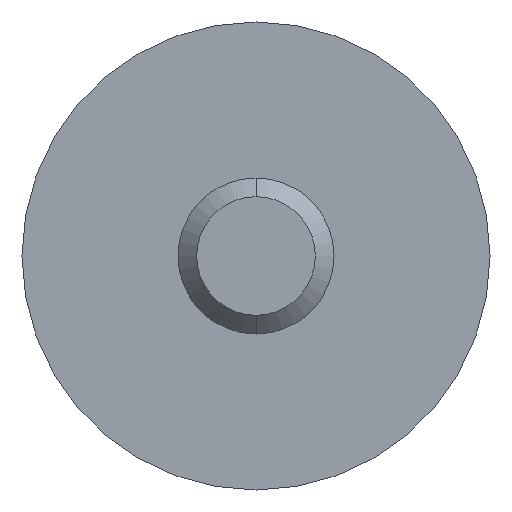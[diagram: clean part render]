
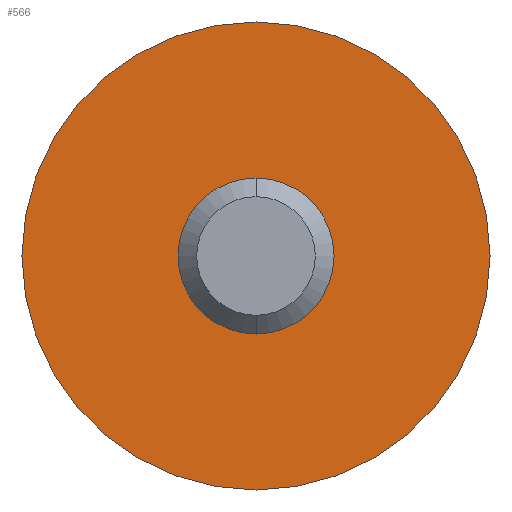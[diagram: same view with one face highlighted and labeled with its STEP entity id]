
A CAD part, front view. The second image highlights one B-rep face of the part: STEP entity #566.
In plain terms, the highlighted planar face has unit normal (0, -1, 0).
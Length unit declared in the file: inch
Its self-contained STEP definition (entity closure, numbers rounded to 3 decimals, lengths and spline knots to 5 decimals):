
#38 = DIRECTION ( 'NONE',  ( 0., -1., 0. ) ) ;
#50 = DIRECTION ( 'NONE',  ( 0., 0., 1. ) ) ;
#51 = CARTESIAN_POINT ( 'NONE',  ( 0., 0., 0. ) ) ;
#110 = DIRECTION ( 'NONE',  ( 0., 0., 1. ) ) ;
#111 = DIRECTION ( 'NONE',  ( 0., 1., 0. ) ) ;
#113 = CARTESIAN_POINT ( 'NONE',  ( 0., 0., 0. ) ) ;
#206 = VERTEX_POINT ( 'NONE', #448 ) ;
#209 = VERTEX_POINT ( 'NONE', #446 ) ;
#225 = EDGE_LOOP ( 'NONE', ( #363, #293 ) ) ;
#234 = VERTEX_POINT ( 'NONE', #457 ) ;
#291 = ORIENTED_EDGE ( 'NONE', *, *, #561, .F. ) ;
#293 = ORIENTED_EDGE ( 'NONE', *, *, #578, .F. ) ;
#363 = ORIENTED_EDGE ( 'NONE', *, *, #557, .F. ) ;
#375 = EDGE_LOOP ( 'NONE', ( #387, #291 ) ) ;
#387 = ORIENTED_EDGE ( 'NONE', *, *, #575, .F. ) ;
#389 = VERTEX_POINT ( 'NONE', #465 ) ;
#446 = CARTESIAN_POINT ( 'NONE',  ( 0., 0., -0.375 ) ) ;
#448 = CARTESIAN_POINT ( 'NONE',  ( 0., 0., 0.375 ) ) ;
#457 = CARTESIAN_POINT ( 'NONE',  ( 0., 0., 0.125 ) ) ;
#465 = CARTESIAN_POINT ( 'NONE',  ( 0., 0., -0.125 ) ) ;
#514 = CARTESIAN_POINT ( 'NONE',  ( 0., 0., 0. ) ) ;
#515 = DIRECTION ( 'NONE',  ( 0., -1., 0. ) ) ;
#516 = DIRECTION ( 'NONE',  ( 0., 0., 1. ) ) ;
#525 = CARTESIAN_POINT ( 'NONE',  ( 0., 0., 0. ) ) ;
#526 = DIRECTION ( 'NONE',  ( 0., 1., 0. ) ) ;
#527 = DIRECTION ( 'NONE',  ( 0., 0., 1. ) ) ;
#536 = CARTESIAN_POINT ( 'NONE',  ( 0., 0., 0. ) ) ;
#539 = FACE_OUTER_BOUND ( 'NONE', #375, .T. ) ;
#541 = PLANE ( 'NONE',  #609 ) ;
#542 = FACE_BOUND ( 'NONE', #225, .T. ) ;
#543 = DIRECTION ( 'NONE',  ( 0., 1., 0. ) ) ;
#544 = DIRECTION ( 'NONE',  ( 0., 0., 1. ) ) ;
#557 = EDGE_CURVE ( 'NONE', #234, #389, #671, .T. ) ;
#561 = EDGE_CURVE ( 'NONE', #206, #209, #709, .T. ) ;
#566 = ADVANCED_FACE ( 'NONE', ( #539, #542 ), #541, .F. ) ;
#575 = EDGE_CURVE ( 'NONE', #209, #206, #604, .T. ) ;
#578 = EDGE_CURVE ( 'NONE', #389, #234, #705, .T. ) ;
#604 = CIRCLE ( 'NONE', #706, 0.375 ) ;
#606 = AXIS2_PLACEMENT_3D ( 'NONE', #51, #38, #50 ) ;
#609 = AXIS2_PLACEMENT_3D ( 'NONE', #536, #543, #544 ) ;
#636 = AXIS2_PLACEMENT_3D ( 'NONE', #525, #526, #527 ) ;
#670 = AXIS2_PLACEMENT_3D ( 'NONE', #514, #515, #516 ) ;
#671 = CIRCLE ( 'NONE', #670, 0.125 ) ;
#705 = CIRCLE ( 'NONE', #606, 0.125 ) ;
#706 = AXIS2_PLACEMENT_3D ( 'NONE', #113, #111, #110 ) ;
#709 = CIRCLE ( 'NONE', #636, 0.375 ) ;
